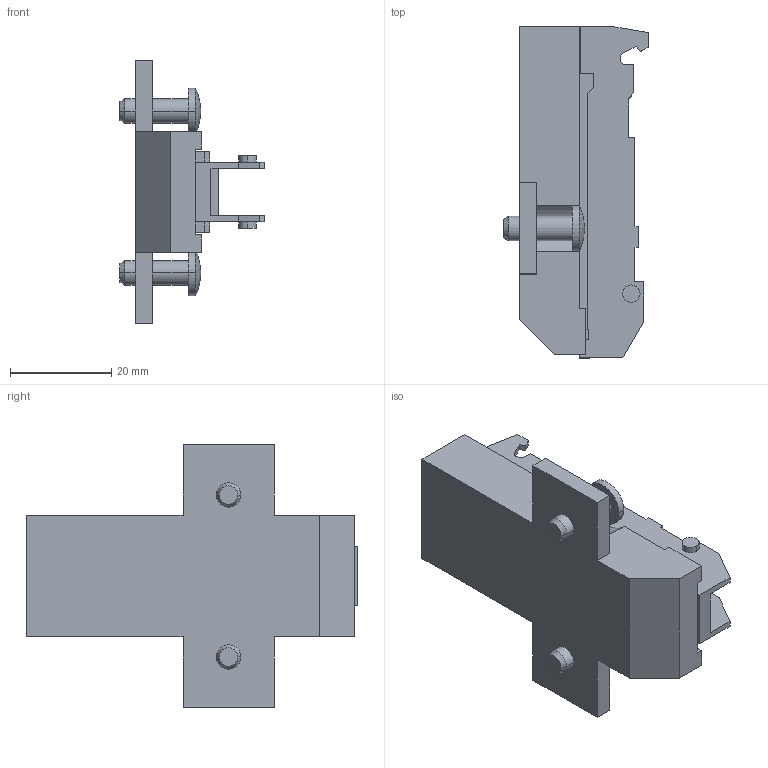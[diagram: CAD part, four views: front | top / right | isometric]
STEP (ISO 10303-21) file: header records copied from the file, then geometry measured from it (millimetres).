
FILE_DESCRIPTION (( 'STEP AP214' ), '1' );
FILE_NAME ('1D Kreuzmontageplatte_37_32_H15_Euro.STEP', '2011-08-18T14:03:56', ( '' ), ( '' ), 'SwSTEP 2.0', 'SolidWorks 2011', '' );
FILE_SCHEMA (( 'AUTOMOTIVE_DESIGN' ));
Length unit declared in the file: millimetre
Products named in the file (1): 1D Kreuzmontageplatte_37_32_H15_Euro
Bounding box: 28.5 x 65.55 x 52 mm (x, y, z)
Volume: 24492.2 mm3; surface area: 9816.3 mm2
Topology: 1 solids, 1 shells, 121 faces, 329 edges, 218 vertices
Faces by surface type: plane 93, cylinder 20, cone 4, sphere 4
Entity records: 3817 total; most frequent: CARTESIAN_POINT 669, ORIENTED_EDGE 658, DIRECTION 625, EDGE_CURVE 329, VECTOR 277, LINE 277, VERTEX_POINT 218, AXIS2_PLACEMENT_3D 174
